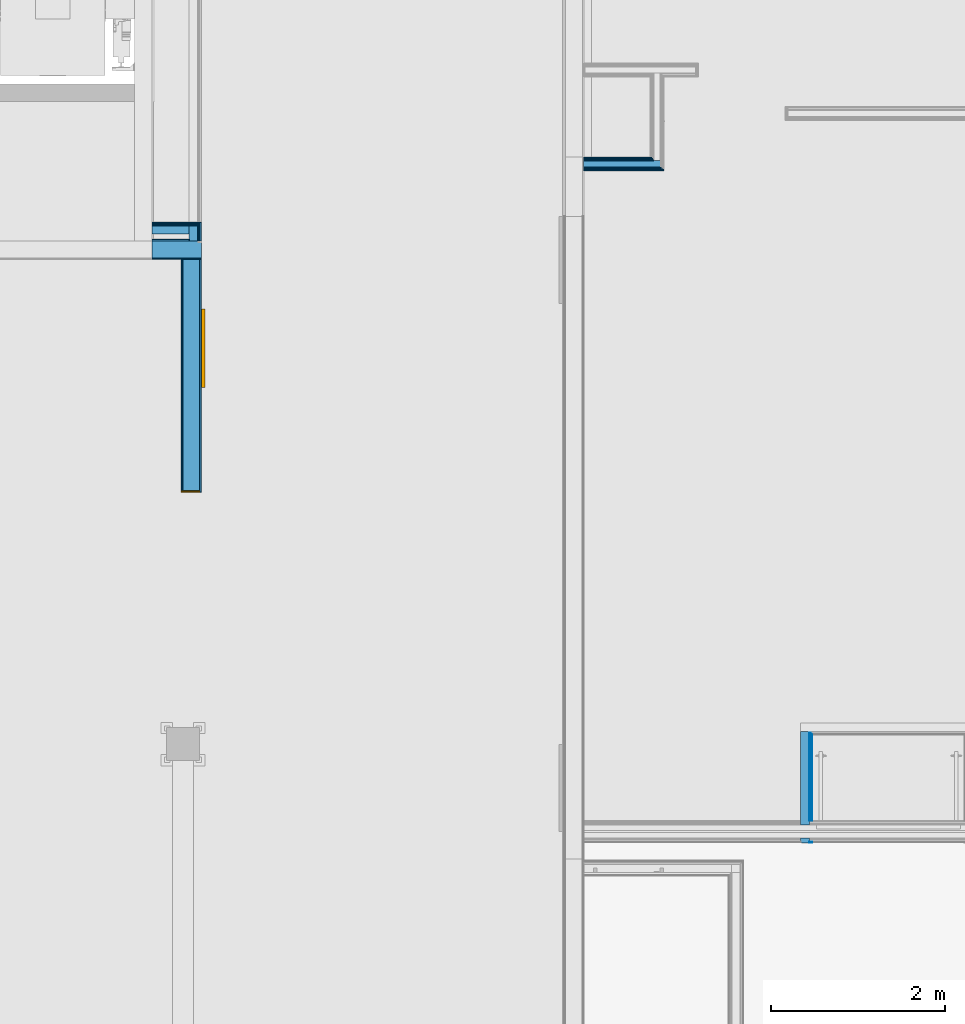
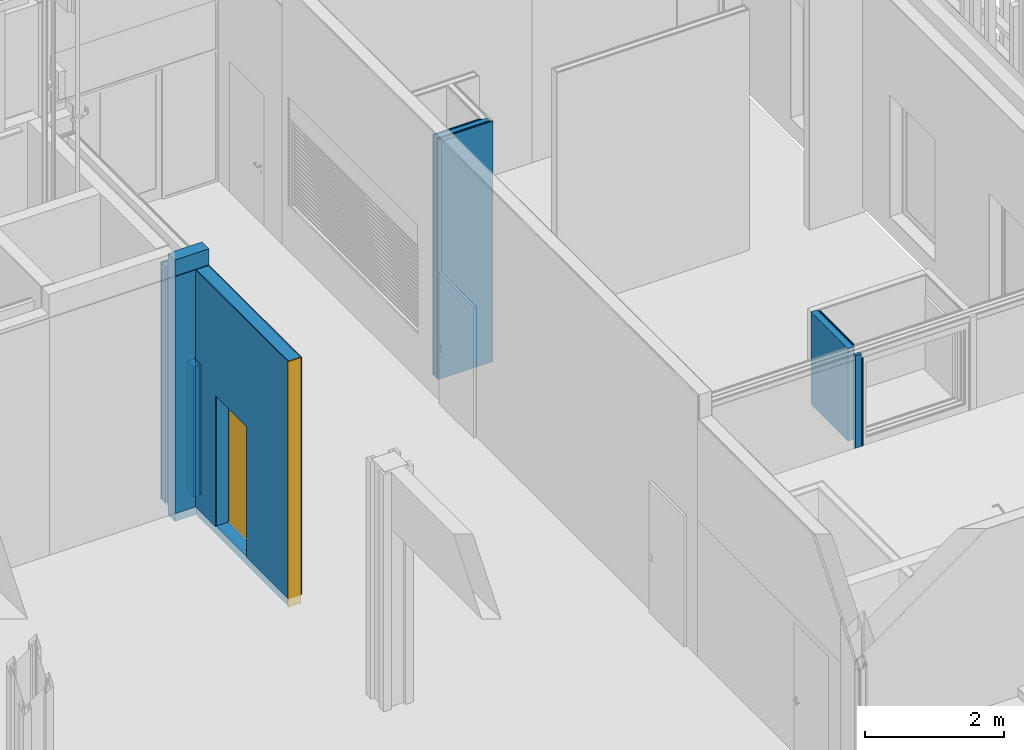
# One storey, part 179 of 260: 25 building element parts, 1 covering, 1 door, 2 openings, 6 elements without a shape of their own.
"""IFC2X3 building model written with IfcOpenShell, lengths in millimetres."""

from ifc_helpers import new_model, entity, si_unit, converted_unit, derived_unit, money_unit, direction, frame, origin_with_axes, place, context, subcontext, project, spatial, faceted_brep, material, type_object, element, fill, aggregate, save


model = new_model("IFC2X3")

# Units and contexts
model_context = context("Model", 3, precision=0.01, world=origin_with_axes(), true_north=direction((0.0, 1.0)))
body_context = subcontext(model_context, "Body", "Model", "MODEL_VIEW")
ifc_project = project(units=[si_unit("LENGTHUNIT", "METRE", prefix="MILLI"), si_unit("AREAUNIT", "SQUARE_METRE"), si_unit("VOLUMEUNIT", "CUBIC_METRE"), converted_unit("PLANEANGLEUNIT", "DEGREE", entity("IfcPlaneAngleMeasure", 0.0174532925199), si_unit("PLANEANGLEUNIT", "RADIAN"), dimensions=[0, 0, 0, 0, 0, 0, 0]), money_unit("EUR"), converted_unit("TIMEUNIT", "Year", entity("IfcTimeMeasure", 31556926.0), si_unit("TIMEUNIT", "SECOND"), dimensions=[0, 0, 1, 0, 0, 0, 0]), si_unit("MASSUNIT", "GRAM", prefix="KILO"), si_unit("THERMODYNAMICTEMPERATUREUNIT", "DEGREE_CELSIUS"), si_unit("LUMINOUSINTENSITYUNIT", "LUMEN"), si_unit("ENERGYUNIT", "JOULE", prefix="MEGA"), derived_unit("THERMALCONDUCTANCEUNIT", [(si_unit("POWERUNIT", "WATT"), 1), (si_unit("LENGTHUNIT", "METRE"), -1), (si_unit("THERMODYNAMICTEMPERATUREUNIT", "KELVIN"), -1)]), derived_unit("SPECIFICHEATCAPACITYUNIT", [(si_unit("ENERGYUNIT", "JOULE"), 1), (si_unit("MASSUNIT", "GRAM", prefix="KILO"), -1), (si_unit("THERMODYNAMICTEMPERATUREUNIT", "KELVIN"), -1)]), derived_unit("MASSDENSITYUNIT", [(si_unit("MASSUNIT", "GRAM", prefix="KILO"), 1), (si_unit("VOLUMEUNIT", "CUBIC_METRE"), -1)])], contexts=[model_context])

# Site, building, storey
site_placement = place(None, origin_with_axes())
site = spatial("IfcSite", under=ifc_project, at=site_placement, Name="Kolde pst 67a", CompositionType="ELEMENT")
building_placement = place(site_placement, origin_with_axes())
building = spatial("IfcBuilding", under=site, at=building_placement, Name="Riigigümnaasium", CompositionType="ELEMENT")
storey_placement = place(building_placement, origin_with_axes())
storey = spatial("IfcBuildingStorey", under=building, at=storey_placement, Name="1. korrus", CompositionType="ELEMENT", Elevation=0.0)

# Door
door_style = type_object("IfcDoorStyle", Name="Exterior Sliding Door 25", ConstructionType="NOTDEFINED", OperationType="SLIDING_TO_LEFT", ParameterTakesPrecedence=False, Sizeable=False)
wall_4_placement = place(storey_placement, frame((48224.9854661, 45654.9999598, -150.0), z_axis=(0.0, 0.0, 1.0), x_axis=(0.0, -1.0, 0.0)))
opening_2_placement = place(wall_4_placement, frame((1020.03828945, 0.0, 150.0), z_axis=(0.0, 0.0, 1.0), x_axis=(1.0, 0.0, 0.0)))
door_placement = place(opening_2_placement, frame((-450.0, 0.0, 0.0), z_axis=(0.0, 0.0, 1.0), x_axis=(1.0, 0.0, 0.0)))
door = element("IfcDoor", 1, at=door_placement, inside=storey, type_object=door_style, Name="Siseuks", ObjectType="DOOR", OverallHeight=2300.0, OverallWidth=900.0, context=body_context, shape_type="Brep", body=[
    faceted_brep([(880.0, 220.0, 940.0), (880.0, 210.0, 940.0), (820.0, 210.0, 940.0), (820.0, 220.0, 940.0), (880.0, 220.0, 1060.0), (880.0, 210.0, 1060.0), (820.0, 210.0, 1060.0), (870.0, 210.0, 955.0), (830.0, 210.0, 955.0), (830.0, 210.0, 1045.0), (870.0, 210.0, 1045.0), (820.0, 220.0, 1060.0), (870.0, 220.0, 955.0), (870.0, 220.0, 1045.0), (830.0, 220.0, 1045.0), (830.0, 220.0, 955.0)], [[[0, 1, 2, 3]], [[4, 5, 1, 0]], [[1, 5, 6, 2], [7, 8, 9, 10]], [[3, 2, 6, 11]], [[0, 3, 11, 4], [12, 13, 14, 15]], [[11, 6, 5, 4]], [[15, 8, 7, 12]], [[14, 9, 8, 15]], [[13, 10, 9, 14]], [[12, 7, 10, 13]]]),
    faceted_brep([(870.0, 220.0, 955.0), (870.0, 210.0, 955.0), (830.0, 217.0, 955.0), (830.0, 220.0, 955.0), (870.0, 220.0, 1045.0), (870.0, 210.0, 1045.0), (830.0, 217.0, 1045.0), (830.0, 220.0, 1045.0)], [[[0, 1, 2, 3]], [[4, 5, 1, 0]], [[1, 5, 6, 2]], [[3, 2, 6, 7]], [[0, 3, 7, 4]], [[7, 6, 5, 4]]]),
    faceted_brep([(880.0, 260.0, 940.0), (820.0, 260.0, 940.0), (820.0, 270.0, 940.0), (880.0, 270.0, 940.0), (880.0, 260.0, 1060.0), (820.0, 260.0, 1060.0), (870.0, 260.0, 955.0), (830.0, 260.0, 955.0), (830.0, 260.0, 1045.0), (870.0, 260.0, 1045.0), (820.0, 270.0, 1060.0), (880.0, 270.0, 1060.0), (870.0, 270.0, 955.0), (870.0, 270.0, 1045.0), (830.0, 270.0, 1045.0), (830.0, 270.0, 955.0)], [[[0, 1, 2, 3]], [[0, 4, 5, 1], [6, 7, 8, 9]], [[1, 5, 10, 2]], [[3, 2, 10, 11], [12, 13, 14, 15]], [[4, 0, 3, 11]], [[5, 4, 11, 10]], [[7, 6, 12, 15]], [[8, 7, 15, 14]], [[9, 8, 14, 13]], [[6, 9, 13, 12]]]),
    faceted_brep([(870.0, 260.0, 955.0), (830.0, 260.0, 955.0), (830.0, 263.0, 955.0), (870.0, 270.0, 955.0), (870.0, 260.0, 1045.0), (830.0, 260.0, 1045.0), (830.0, 263.0, 1045.0), (870.0, 270.0, 1045.0)], [[[0, 1, 2, 3]], [[0, 4, 5, 1]], [[1, 5, 6, 2]], [[3, 2, 6, 7]], [[4, 0, 3, 7]], [[5, 4, 7, 6]]]),
    faceted_brep([(0.0, 260.0, 0.0), (900.0, 260.0, 0.0), (900.0, 220.0, 0.0), (0.0, 220.0, 0.0), (0.0, 260.0, 2300.0), (900.0, 260.0, 2300.0), (900.0, 220.0, 2300.0), (0.0, 220.0, 2300.0)], [[[0, 1, 2, 3]], [[0, 4, 5, 1]], [[1, 5, 6, 2]], [[3, 2, 6, 7]], [[4, 0, 3, 7]], [[5, 4, 7, 6]]]),
])

# Covering
ifc_material_1 = material(Name="_VIIMISTLUSKIHT - viimistlus vastavalt SA osale")
covering_type = type_object("IfcCoveringType", Name="Returned End 25", PredefinedType="NOTDEFINED")
opening_1_placement = place(wall_4_placement, frame((2670.0, 0.0, 0.0), z_axis=(0.0, 0.0, 1.0), x_axis=(1.0, 0.0, 0.0)))
covering_placement = place(opening_1_placement, frame((7.5, 0.0, 0.0), z_axis=(0.0, 0.0, 1.0), x_axis=(-1.0, 0.0, 0.0)))
covering = element("IfcCovering", 2, at=covering_placement, inside=storey, type_object=covering_type, material=ifc_material_1, Name="Seina otsa krohv", PredefinedType="NOTDEFINED", context=body_context, shape_type="Brep", body=[
    faceted_brep([(7.5, -200.0, 0.0), (22.5, -200.0, 0.0), (22.5, -200.0, 4320.0), (7.5, -200.0, 4320.0), (7.5, 15.0, 0.0), (22.5, 15.0, 0.0), (22.5, 15.0, 4320.0), (7.5, 15.0, 4320.0)], [[[0, 1, 2, 3]], [[4, 5, 1, 0]], [[5, 6, 2, 1]], [[6, 7, 3, 2]], [[7, 4, 0, 3]], [[4, 7, 6, 5]]]),
])

# Wall, building element parts
wall_type_1 = type_object("IfcWallType", Name="SS-RB-20/2_+2 plaat 230", PredefinedType="NOTDEFINED")
wall_1_placement = place(storey_placement, frame((48439.9854661, 45669.9999598, -150.0), z_axis=(0.0, 0.0, 1.0), x_axis=(-1.0, 0.0, 0.0)))
wall_1 = element("IfcWall", 3, at=wall_1_placement, inside=storey, type_object=wall_type_1, Name="Sisesein")
building_element_part_1_placement = place(wall_1_placement, origin_with_axes())
building_element_part_1 = element("IfcBuildingElementPart", 4, at=building_element_part_1_placement, material=ifc_material_1, Name="_VIIMISTLUSKIHT - viimistlus vastavalt SA osale", context=body_context, shape_type="Brep", body=[
    faceted_brep([(0.0, 15.0, 150.0), (0.0, -4.47037962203e-07, 150.0), (0.0, -4.47037962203e-07, 4320.0), (0.0, 15.0000023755, 4320.0), (565.000005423, 0.0, 150.0), (565.000005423, 15.0, 150.0), (565.000005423, 0.0, 4320.0), (565.000005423, 15.0, 4320.0)], [[[0, 1, 2, 3]], [[4, 1, 0, 5]], [[1, 4, 6, 2]], [[3, 2, 6, 7]], [[5, 0, 3, 7]], [[4, 5, 7, 6]]]),
])
ifc_material_2 = material(Name="_KANDETARIND - monteeritav raudbetoon vastavalt EK osale")
building_element_part_2_placement = place(wall_1_placement, origin_with_axes())
building_element_part_2 = element("IfcBuildingElementPart", 5, at=building_element_part_2_placement, material=ifc_material_2, Name="_KANDETARIND - monteeritav raudbetoon vastavalt EK osale", context=body_context, shape_type="Brep", body=[
    faceted_brep([(565.000005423, -200.0, 4600.0), (0.0, -199.999999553, 4600.0), (0.0, -199.999999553, 0.0), (565.000005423, -200.0, 0.0), (0.0, -4.47037962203e-07, 4600.0), (565.000005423, 0.0, 4600.0), (0.0, -4.47037962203e-07, 0.0), (565.000005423, 0.0, 0.0)], [[[0, 1, 2, 3]], [[4, 1, 0, 5]], [[1, 4, 6, 2]], [[7, 3, 2, 6]], [[5, 0, 3, 7]], [[4, 5, 7, 6]]]),
])
building_element_part_3_placement = place(wall_1_placement, origin_with_axes())
building_element_part_3 = element("IfcBuildingElementPart", 6, at=building_element_part_3_placement, material=ifc_material_1, Name="_VIIMISTLUSKIHT - viimistlus vastavalt SA osale", context=body_context, shape_type="Brep", body=[
    faceted_brep([(140.0, -199.999999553, 150.0), (140.0, -215.0, 150.0), (140.0, -215.0, 4320.0), (140.0, -199.999999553, 4320.0), (565.000005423, -215.0, 150.0), (565.000005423, -200.0, 150.0), (565.000005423, -215.0, 4320.0), (565.000005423, -200.0, 4320.0)], [[[0, 1, 2, 3]], [[4, 1, 0, 5]], [[1, 4, 6, 2]], [[3, 2, 6, 7]], [[5, 0, 3, 7]], [[4, 5, 7, 6]]]),
])
aggregate(wall_1, [building_element_part_1, building_element_part_2, building_element_part_3])

wall_type_2 = type_object("IfcWallType", Name="SS-MK-7,5/1_plaaditud 155", PredefinedType="NOTDEFINED")
wall_2_placement = place(storey_placement, frame((52830.5975603, 46830.1043901, 0.0), z_axis=(0.0, 0.0, 1.0), x_axis=(1.0, 0.0, 0.0)))
wall_2 = element("IfcWall", 7, at=wall_2_placement, inside=storey, type_object=wall_type_2, Name="Sisesein")
building_element_part_4_placement = place(wall_2_placement, origin_with_axes())
building_element_part_4 = element("IfcBuildingElementPart", 8, at=building_element_part_4_placement, material=ifc_material_1, Name="_VIIMISTLUSKIHT - viimistlus vastavalt SA osale", context=body_context, shape_type="Brep", body=[
    faceted_brep([(779.831880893, -15.0, 900.0), (779.831880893, 0.0, 900.0), (779.831880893, 0.0, 4230.00000998), (779.831880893, -15.0, 4230.00000998), (764.831912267, -3.13736521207e-05, 900.0), (764.831912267, -3.13736521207e-05, 0.0), (0.0, 0.0, 0.0), (0.0, 0.0, 4230.00000998), (0.0, -15.0, 4230.00000998), (779.831882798, -15.0, 0.0), (0.0, -15.0, 0.0)], [[[0, 1, 2, 3]], [[4, 1, 0]], [[4, 5, 6, 7, 2, 1]], [[3, 2, 7, 8]], [[9, 0, 3, 8, 10]], [[9, 5, 4, 0]], [[5, 9, 10, 6]], [[10, 8, 7, 6]]]),
])
ifc_material_3 = material(Name="_PLAATMATERJAL - kipsplaat veekindel")
building_element_part_5_placement = place(wall_2_placement, origin_with_axes())
building_element_part_5 = element("IfcBuildingElementPart", 9, at=building_element_part_5_placement, material=ifc_material_3, Name="_PLAATMATERJAL - kipsplaat veekindel", context=body_context, shape_type="Brep", body=[
    faceted_brep([(792.331880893, -27.5, 4230.00000998), (792.331880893, -15.0, 4230.00000998), (0.0, -15.0, 4230.00000998), (0.0, -27.5, 4230.00000998), (792.331880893, -27.5, 0.0), (792.331880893, -15.0, 0.0), (0.0, -15.0, 0.0), (0.0, -27.5, 0.0)], [[[0, 1, 2, 3]], [[1, 0, 4, 5]], [[1, 5, 6, 2]], [[7, 3, 2, 6]], [[4, 0, 3, 7]], [[5, 4, 7, 6]]]),
])
building_element_part_6_placement = place(wall_2_placement, origin_with_axes())
building_element_part_6 = element("IfcBuildingElementPart", 10, at=building_element_part_6_placement, material=ifc_material_3, Name="_PLAATMATERJAL - kipsplaat veekindel", context=body_context, shape_type="Brep", body=[
    faceted_brep([(804.831880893, -27.5, 4230.00000998), (0.0, -27.5, 4230.00000998), (0.0, -40.0, 4230.00000998), (804.831880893, -40.0, 4230.00000998), (804.831880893, -27.5, 0.0), (0.0, -27.5, 0.0), (0.0, -40.0, 0.0), (804.831880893, -40.0, 0.0)], [[[0, 1, 2, 3]], [[4, 5, 1, 0]], [[2, 1, 5, 6]], [[3, 2, 6, 7]], [[3, 7, 4, 0]], [[7, 6, 5, 4]]]),
])
ifc_material_4 = material(Name="_KARKASS - metallkarkass CW 75/50, mineraalvill karkassi vahel")
building_element_part_7_placement = place(wall_2_placement, origin_with_axes())
building_element_part_7 = element("IfcBuildingElementPart", 11, at=building_element_part_7_placement, material=ifc_material_4, Name="_KARKASS - metallkarkass CW 75/50, mineraalvill karkassi vahel", context=body_context, shape_type="Brep", body=[
    faceted_brep([(879.831880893, -40.0, 4230.00000998), (0.0, -40.0, 4230.00000998), (0.0, -115.0, 4230.00000998), (879.831880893, -115.0, 4230.00000998), (879.831880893, -40.0, 0.0), (0.0, -40.0, 0.0), (0.0, -115.0, 0.0), (879.831880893, -115.0, 0.0)], [[[0, 1, 2, 3]], [[4, 5, 1, 0]], [[2, 1, 5, 6]], [[3, 2, 6, 7]], [[3, 7, 4, 0]], [[7, 6, 5, 4]]]),
])
building_element_part_8_placement = place(wall_2_placement, origin_with_axes())
building_element_part_8 = element("IfcBuildingElementPart", 12, at=building_element_part_8_placement, material=ifc_material_3, Name="_PLAATMATERJAL - kipsplaat veekindel", context=body_context, shape_type="Brep", body=[
    faceted_brep([(892.331880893, -115.0, 4230.00000998), (0.0, -115.0, 4230.00000998), (0.0, -127.5, 4230.00000998), (892.331880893, -127.5, 4230.00000998), (892.331880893, -115.0, 0.0), (0.0, -115.0, 0.0), (0.0, -127.5, 0.0), (892.331880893, -127.5, 0.0)], [[[0, 1, 2, 3]], [[4, 5, 1, 0]], [[2, 1, 5, 6]], [[3, 2, 6, 7]], [[3, 7, 4, 0]], [[7, 6, 5, 4]]]),
])
building_element_part_9_placement = place(wall_2_placement, origin_with_axes())
building_element_part_9 = element("IfcBuildingElementPart", 13, at=building_element_part_9_placement, material=ifc_material_3, Name="_PLAATMATERJAL - kipsplaat veekindel", context=body_context, shape_type="Brep", body=[
    faceted_brep([(904.831880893, -127.5, 4230.00000998), (0.0, -127.5, 4230.00000998), (0.0, -140.0, 4230.00000998), (904.831880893, -140.0, 4230.00000998), (904.831880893, -127.5, 0.0), (0.0, -127.5, 0.0), (0.0, -140.0, 0.0), (904.831880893, -140.0, 0.0)], [[[0, 1, 2, 3]], [[4, 5, 1, 0]], [[2, 1, 5, 6]], [[3, 2, 6, 7]], [[3, 7, 4, 0]], [[7, 6, 5, 4]]]),
])
building_element_part_10_placement = place(wall_2_placement, origin_with_axes())
building_element_part_10 = element("IfcBuildingElementPart", 14, at=building_element_part_10_placement, material=ifc_material_1, Name="_VIIMISTLUSKIHT - viimistlus vastavalt SA osale", context=body_context, shape_type="Brep", body=[
    faceted_brep([(919.831880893, -140.0, 4230.00000998), (0.0, -140.0, 4230.00000998), (0.0, -155.0, 4230.00000998), (919.831880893, -155.0, 4230.00000998), (919.831880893, -140.0, 0.0), (0.0, -140.0, 0.0), (0.0, -155.0, 0.0), (919.831880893, -155.0, 0.0)], [[[0, 1, 2, 3]], [[4, 5, 1, 0]], [[2, 1, 5, 6]], [[3, 2, 6, 7]], [[3, 7, 4, 0]], [[7, 6, 5, 4]]]),
])
aggregate(wall_2, [building_element_part_4, building_element_part_5, building_element_part_6, building_element_part_7, building_element_part_8, building_element_part_9, building_element_part_10])

wall_type_3 = type_object("IfcWallType", Name="SS-MK-10/6_šahti sein+krohv 40 dB 135", PredefinedType="NOTDEFINED")
wall_3_placement = place(storey_placement, frame((55457.5085138, 40198.8677168, 2600.0), z_axis=(0.0, 0.0, 1.0), x_axis=(0.0, -1.0, 0.0)))
wall_3 = element("IfcWall", 15, at=wall_3_placement, inside=storey, type_object=wall_type_3, Name="Varisein")
building_element_part_11_placement = place(wall_3_placement, origin_with_axes())
building_element_part_11 = element("IfcBuildingElementPart", 16, at=building_element_part_11_placement, material=ifc_material_1, Name="_VIIMISTLUSKIHT - viimistlus vastavalt SA osale", context=body_context, shape_type="Brep", body=[
    faceted_brep([(1232.0, -10.0, 1550.0), (1232.0, 0.0, 1550.0), (1232.0, 0.0, 0.0), (1232.0, -10.0, 0.0), (1242.0, 0.0, 1550.0), (1242.0, -10.0, 1550.0), (1242.0, 0.0, 0.0), (1242.0, -10.0, 0.0)], [[[0, 1, 2, 3]], [[4, 1, 0, 5]], [[1, 4, 6, 2]], [[2, 6, 7, 3]], [[5, 0, 3, 7]], [[4, 5, 7, 6]]]),
    faceted_brep([(990.0, 0.0, 1630.0), (0.0, 0.0, 1630.0), (0.0, -10.0, 1630.0), (990.0, -10.0, 1630.0), (990.0, 0.0, 0.0), (0.0, 0.0, 0.0), (0.0, -10.0, 0.0), (990.0, -10.0, 0.0)], [[[0, 1, 2, 3]], [[4, 5, 1, 0]], [[2, 1, 5, 6]], [[3, 2, 6, 7]], [[3, 7, 4, 0]], [[7, 6, 5, 4]]]),
])
building_element_part_12_placement = place(wall_3_placement, origin_with_axes())
building_element_part_12 = element("IfcBuildingElementPart", 17, at=building_element_part_12_placement, material=ifc_material_3, Name="_PLAATMATERJAL - kipsplaat veekindel", context=body_context, shape_type="Brep", body=[
    faceted_brep([(1232.0, -22.5, 1550.0), (1232.0, -10.0, 1550.0), (1232.0, -10.0, 0.0), (1232.0, -22.5, 0.0), (1242.0, -10.0, 1550.0), (1242.0, -22.5, 1550.0), (1242.0, -10.0, 0.0), (1242.0, -22.5, 0.0)], [[[0, 1, 2, 3]], [[4, 1, 0, 5]], [[1, 4, 6, 2]], [[2, 6, 7, 3]], [[5, 0, 3, 7]], [[4, 5, 7, 6]]]),
    faceted_brep([(990.0, -10.0, 1630.0), (-10.0, -10.0, 1630.0), (-10.0, -22.5, 1630.0), (990.0, -22.5, 1630.0), (990.0, -10.0, 0.0), (-10.0, -10.0, 0.0), (-10.0, -22.5, 0.0), (990.0, -22.5, 0.0)], [[[0, 1, 2, 3]], [[4, 5, 1, 0]], [[2, 1, 5, 6]], [[3, 2, 6, 7]], [[3, 7, 4, 0]], [[7, 6, 5, 4]]]),
])
building_element_part_13_placement = place(wall_3_placement, origin_with_axes())
building_element_part_13 = element("IfcBuildingElementPart", 18, at=building_element_part_13_placement, material=ifc_material_3, Name="_PLAATMATERJAL - kipsplaat veekindel", context=body_context, shape_type="Brep", body=[
    faceted_brep([(1232.0, -35.0, 1550.0), (1232.0, -22.5, 1550.0), (1232.0, -22.5, 0.0), (1232.0, -35.0, 0.0), (1242.0, -22.5, 1550.0), (1242.0, -35.0, 1550.0), (1242.0, -22.5, 0.0), (1242.0, -35.0, 0.0)], [[[0, 1, 2, 3]], [[4, 1, 0, 5]], [[1, 4, 6, 2]], [[2, 6, 7, 3]], [[5, 0, 3, 7]], [[4, 5, 7, 6]]]),
    faceted_brep([(990.0, -22.5, 1630.0), (-22.5, -22.5, 1630.0), (-22.5, -35.0, 1630.0), (990.0, -35.0, 1630.0), (990.0, -22.5, 0.0), (-22.5, -22.5, 0.0), (-22.5, -35.0, 0.0), (990.0, -35.0, 0.0)], [[[0, 1, 2, 3]], [[4, 5, 1, 0]], [[2, 1, 5, 6]], [[3, 2, 6, 7]], [[3, 7, 4, 0]], [[7, 6, 5, 4]]]),
])
ifc_material_5 = material(Name="_KARKASS - metallkarkass CW 100/50/06 ja UW 100/40/06, samm 600, vahel mineraalvill, helineeldetegur αw = 1.0,  ISOVER ACOUSTIC 100mm või samaväärne")
building_element_part_14_placement = place(wall_3_placement, origin_with_axes())
building_element_part_14 = element("IfcBuildingElementPart", 19, at=building_element_part_14_placement, material=ifc_material_5, Name="_KARKASS - metallkarkass CW 100/50/06 ja UW 100/40/06, samm 600, vahel mineraalvill, helineeldetegur αw = 1.0,  ISOVER ACOUSTIC 100mm või samaväärne", context=body_context, shape_type="Brep", body=[
    faceted_brep([(1035.0, -35.0, 1630.0), (-35.0, -35.0, 1630.0), (-35.0, -135.0, 1630.0), (1035.0, -135.0, 1630.0), (1035.0, -35.0, 0.0), (-35.0, -35.0, 0.0), (-35.0, -135.0, 0.0), (1035.0, -135.0, 0.0)], [[[0, 1, 2, 3]], [[4, 5, 1, 0]], [[2, 1, 5, 6]], [[3, 2, 6, 7]], [[3, 7, 4, 0]], [[7, 6, 5, 4]]]),
    faceted_brep([(1242.0, -135.0, 1630.0), (1242.0, -35.0, 1630.0), (1187.0, -35.0, 1630.0), (1187.0, -135.0, 1630.0), (1242.0, -135.0, 0.0), (1242.0, -35.0, 0.0), (1187.0, -35.0, 0.0), (1187.0, -135.0, 0.0)], [[[0, 1, 2, 3]], [[0, 4, 5, 1]], [[1, 5, 6, 2]], [[3, 2, 6, 7]], [[4, 0, 3, 7]], [[5, 4, 7, 6]]]),
])
aggregate(wall_3, [building_element_part_11, building_element_part_12, building_element_part_13, building_element_part_14])

# Wall, opening
wall_type_4 = type_object("IfcWallType", Name="SS-KP-20/1_2xplaaditud 230", PredefinedType="NOTDEFINED")
wall_4 = element("IfcWall", 20, at=wall_4_placement, inside=storey, type_object=wall_type_4, Name="Sisesein")
opening_1 = element("IfcOpeningElement", 21, at=opening_1_placement, cuts=wall_4, Name="Seina otsa krohv", context=body_context, shape_type="Brep", body=[
    faceted_brep([(-15.0, -15.0, 0.0), (0.0, -15.0, 0.0), (0.0, -15.0, 4320.0), (-15.0, -15.0, 4320.0), (-15.0, 200.0, 0.0), (0.0, 200.0, 0.0), (0.0, 200.0, 4320.0), (-15.0, 200.0, 4320.0)], [[[0, 1, 2, 3]], [[0, 4, 5, 1]], [[1, 5, 6, 2]], [[3, 2, 6, 7]], [[4, 0, 3, 7]], [[5, 4, 7, 6]]]),
])

fill(opening_1, covering)

# Opening
opening_2 = element("IfcOpeningElement", 22, at=opening_2_placement, cuts=wall_4, Name="Siseuks", context=body_context, shape_type="Brep", body=[
    faceted_brep([(-450.0, 460.0, 2300.0), (-450.0, 460.0, 0.0), (-450.0, -230.0, 0.0), (-450.0, -230.0, 2300.0), (450.0, 460.0, 2300.0), (450.0, 460.0, 0.0), (450.0, -230.0, 0.0), (450.0, -230.0, 2300.0)], [[[0, 1, 2, 3]], [[0, 4, 5, 1]], [[1, 5, 6, 2]], [[3, 2, 6, 7]], [[4, 0, 3, 7]], [[5, 4, 7, 6]]]),
])

fill(opening_2, door)

# Building element part
building_element_part_15_placement = place(wall_4_placement, origin_with_axes())
building_element_part_15 = element("IfcBuildingElementPart", 23, at=building_element_part_15_placement, material=ifc_material_1, Name="_VIIMISTLUSKIHT - viimistlus vastavalt SA osale", context=body_context, shape_type="Brep", body=[
    faceted_brep([(1470.03828945, 215.0, 150.0), (1470.03828945, 215.0, 2450.0), (570.03828945, 215.0, 2450.0), (570.03828945, 215.0, 150.0), (0.0, 215.0, 150.0), (0.0, 215.0, 4320.0), (2670.0, 215.0, 4320.0), (2670.0, 215.0, 150.0), (1470.03828945, 200.0, 150.0), (1470.03828945, 200.0, 2450.0), (570.03828945, 200.0, 2450.0), (570.03828945, 200.0, 150.0), (0.0, 200.0, 150.0), (0.0, 200.0, 4320.0), (2670.0, 200.0, 4320.0), (2670.0, 200.0, 150.0)], [[[0, 1, 2, 3, 4, 5, 6, 7]], [[1, 0, 8, 9]], [[2, 1, 9, 10]], [[3, 2, 10, 11]], [[3, 11, 12, 4]], [[12, 13, 5, 4]], [[14, 6, 5, 13]], [[7, 6, 14, 15]], [[8, 0, 7, 15]], [[9, 8, 15, 14, 13, 12, 11, 10]]]),
])

ifc_material_6 = material(Name="_KANDETARIND - kergplokk Fibo3 200mm")
building_element_part_16_placement = place(wall_4_placement, origin_with_axes())
building_element_part_16 = element("IfcBuildingElementPart", 24, at=building_element_part_16_placement, material=ifc_material_6, Name="_KANDETARIND - kergplokk Fibo3 200mm", context=body_context, shape_type="Brep", body=[
    faceted_brep([(2655.0, 0.0, 4320.0), (0.0, 0.0, 4320.0), (0.0, 0.0, 0.0), (2655.0, 0.0, 0.0), (1470.03828945, 0.0, 150.0), (570.03828945, 0.0, 150.0), (570.03828945, 0.0, 2450.0), (1470.03828945, 0.0, 2450.0), (2655.0, 200.0, 4320.0), (0.0, 200.0, 4320.0), (0.0, 200.0, 0.0), (2655.0, 200.0, 0.0), (1470.03828945, 200.0, 150.0), (570.03828945, 200.0, 150.0), (570.03828945, 200.0, 2450.0), (1470.03828945, 200.0, 2450.0)], [[[0, 1, 2, 3], [4, 5, 6, 7]], [[8, 9, 1, 0]], [[1, 9, 10, 2]], [[3, 2, 10, 11]], [[8, 0, 3, 11]], [[12, 13, 5, 4]], [[13, 14, 6, 5]], [[14, 15, 7, 6]], [[15, 12, 4, 7]], [[11, 10, 9, 8], [12, 15, 14, 13]]]),
])

building_element_part_17_placement = place(wall_4_placement, origin_with_axes())
building_element_part_17 = element("IfcBuildingElementPart", 25, at=building_element_part_17_placement, material=ifc_material_1, Name="_VIIMISTLUSKIHT - viimistlus vastavalt SA osale", context=body_context, shape_type="Brep", body=[
    faceted_brep([(1470.03828945, 0.0, 150.0), (1470.03828945, 0.0, 2450.0), (570.03828945, 0.0, 2450.0), (570.03828945, 0.0, 150.0), (0.0, 0.0, 150.0), (0.0, 0.0, 4320.0), (2655.0, 0.0, 4320.0), (2655.0, 0.0, 150.0), (1470.03828945, -15.0, 150.0), (1470.03828945, -15.0, 2450.0), (570.03828945, -15.0, 2450.0), (570.03828945, -15.0, 150.0), (0.0, -15.0, 150.0), (0.0, -15.0, 4320.0), (2655.0, -15.0, 4320.0), (2655.0, -15.0, 150.0)], [[[0, 1, 2, 3, 4, 5, 6, 7]], [[1, 0, 8, 9]], [[2, 1, 9, 10]], [[3, 2, 10, 11]], [[3, 11, 12, 4]], [[13, 5, 4, 12]], [[6, 5, 13, 14]], [[6, 14, 15, 7]], [[8, 0, 7, 15]], [[9, 8, 15, 14, 13, 12, 11, 10]]]),
])

aggregate(wall_4, [building_element_part_15, building_element_part_16, building_element_part_17])

# Wall, building element parts
wall_type_5 = type_object("IfcWallType", Name="SS-MK-10/2_šahti sein+plaat 140", PredefinedType="NOTDEFINED")
wall_5_placement = place(storey_placement, frame((48439.9854661, 45669.9999598, 0.0), z_axis=(0.0, 0.0, 1.0), x_axis=(0.0, 1.0, 0.0)))
wall_5 = element("IfcWall", 26, at=wall_5_placement, inside=storey, type_object=wall_type_5, Name="Sisesein")
building_element_part_18_placement = place(wall_5_placement, origin_with_axes())
building_element_part_18 = element("IfcBuildingElementPart", 27, at=building_element_part_18_placement, material=ifc_material_5, Name="_KARKASS - metallkarkass CW 100/50/06 ja UW 100/40/06, samm 600, vahel mineraalvill, helineeldetegur αw = 1.0,  ISOVER ACOUSTIC 100mm või samaväärne", context=body_context, shape_type="Brep", body=[
    faceted_brep([(375.000000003, 140.000005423, 2300.0), (375.000000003, 40.0000054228, 2300.0), (375.000000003, 40.0, 0.0), (375.000000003, 140.0, 0.0), (200.0, 40.0000054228, 2300.0), (200.0, 140.000005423, 2300.0), (200.0, 40.0, 0.0), (200.0, 140.0, 0.0)], [[[0, 1, 2, 3]], [[4, 1, 0, 5]], [[1, 4, 6, 2]], [[3, 2, 6, 7]], [[5, 0, 3, 7]], [[4, 5, 7, 6]]]),
])
building_element_part_19_placement = place(wall_5_placement, origin_with_axes())
building_element_part_19 = element("IfcBuildingElementPart", 28, at=building_element_part_19_placement, material=ifc_material_3, Name="_PLAATMATERJAL - kipsplaat veekindel", context=body_context, shape_type="Brep", body=[
    faceted_brep([(387.500000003, 40.0000054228, 2300.0), (387.500000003, 27.5000054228, 2300.0), (387.500000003, 27.5, 0.0), (387.500000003, 40.0, 0.0), (200.0, 27.5000054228, 2300.0), (200.0, 40.0000054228, 2300.0), (200.0, 27.5, 0.0), (200.0, 40.0, 0.0)], [[[0, 1, 2, 3]], [[4, 1, 0, 5]], [[1, 4, 6, 2]], [[3, 2, 6, 7]], [[5, 0, 3, 7]], [[4, 5, 7, 6]]]),
])
building_element_part_20_placement = place(wall_5_placement, origin_with_axes())
building_element_part_20 = element("IfcBuildingElementPart", 29, at=building_element_part_20_placement, material=ifc_material_3, Name="_PLAATMATERJAL - kipsplaat veekindel", context=body_context, shape_type="Brep", body=[
    faceted_brep([(400.000000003, 27.5000054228, 2300.0), (400.000000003, 15.0000054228, 2300.0), (400.000000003, 15.0, 0.0), (400.000000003, 27.5, 0.0), (200.0, 15.0000054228, 2300.0), (200.0, 27.5000054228, 2300.0), (200.0, 15.0, 0.0), (200.0, 27.5, 0.0)], [[[0, 1, 2, 3]], [[4, 1, 0, 5]], [[1, 4, 6, 2]], [[3, 2, 6, 7]], [[5, 0, 3, 7]], [[4, 5, 7, 6]]]),
])
building_element_part_21_placement = place(wall_5_placement, origin_with_axes())
building_element_part_21 = element("IfcBuildingElementPart", 30, at=building_element_part_21_placement, material=ifc_material_1, Name="_VIIMISTLUSKIHT - viimistlus vastavalt SA osale", context=body_context, shape_type="Brep", body=[
    faceted_brep([(415.000000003, 15.0000054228, 2300.0), (415.000000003, 5.42276978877e-06, 2300.0), (415.000000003, 0.0, 0.0), (415.000000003, 15.0, 0.0), (200.0, 5.42276978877e-06, 2300.0), (200.0, 15.0000054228, 2300.0), (200.0, 0.0, 0.0), (200.0, 15.0, 0.0)], [[[0, 1, 2, 3]], [[4, 1, 0, 5]], [[1, 4, 6, 2]], [[7, 3, 2, 6]], [[5, 0, 3, 7]], [[4, 5, 7, 6]]]),
])
aggregate(wall_5, [building_element_part_18, building_element_part_19, building_element_part_20, building_element_part_21])

wall_6_placement = place(storey_placement, frame((48439.9854661, 46084.9999599, 0.0), z_axis=(0.0, 0.0, 1.0), x_axis=(-1.0, 0.0, 0.0)))
wall_6 = element("IfcWall", 31, at=wall_6_placement, inside=storey, type_object=wall_type_5, Name="Sisesein")
building_element_part_22_placement = place(wall_6_placement, origin_with_axes())
building_element_part_22 = element("IfcBuildingElementPart", 32, at=building_element_part_22_placement, material=ifc_material_5, Name="_KARKASS - metallkarkass CW 100/50/06 ja UW 100/40/06, samm 600, vahel mineraalvill, helineeldetegur αw = 1.0,  ISOVER ACOUSTIC 100mm või samaväärne", context=body_context, shape_type="Brep", body=[
    faceted_brep([(565.000005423, 40.0, 4170.0), (140.0, 40.0, 4170.0), (140.0, 40.0, 0.0), (565.000005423, 40.0, 0.0), (140.0, 140.0, 4170.0), (565.000005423, 140.0, 4170.0), (140.0, 140.0, 0.0), (565.000005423, 140.0, 0.0)], [[[0, 1, 2, 3]], [[4, 1, 0, 5]], [[1, 4, 6, 2]], [[3, 2, 6, 7]], [[5, 0, 3, 7]], [[4, 5, 7, 6]]]),
])
building_element_part_23_placement = place(wall_6_placement, origin_with_axes())
building_element_part_23 = element("IfcBuildingElementPart", 33, at=building_element_part_23_placement, material=ifc_material_3, Name="_PLAATMATERJAL - kipsplaat veekindel", context=body_context, shape_type="Brep", body=[
    faceted_brep([(565.000005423, 27.5, 4170.0), (140.000005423, 27.5, 4170.0), (140.000005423, 27.5, 2300.0), (40.0000054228, 27.5, 2300.0), (40.0, 27.5, 0.0), (565.000005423, 27.5, 0.0), (140.000005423, 40.0, 4170.0), (565.000005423, 40.0, 4170.0), (140.000005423, 40.0, 2300.0), (40.0000054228, 40.0, 2300.0), (40.0, 40.0, 0.0), (565.000005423, 40.0, 0.0)], [[[0, 1, 2, 3, 4, 5]], [[6, 1, 0, 7]], [[1, 6, 8, 2]], [[8, 9, 3, 2]], [[4, 3, 9, 10]], [[5, 4, 10, 11]], [[7, 0, 5, 11]], [[6, 7, 11, 10, 9, 8]]]),
])
building_element_part_24_placement = place(wall_6_placement, origin_with_axes())
building_element_part_24 = element("IfcBuildingElementPart", 34, at=building_element_part_24_placement, material=ifc_material_3, Name="_PLAATMATERJAL - kipsplaat veekindel", context=body_context, shape_type="Brep", body=[
    faceted_brep([(565.000005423, 15.0, 4170.0), (140.000005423, 15.0, 4170.0), (140.000005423, 15.0, 2300.0), (27.5000054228, 15.0, 2300.0), (27.5, 15.0, 0.0), (565.000005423, 15.0, 0.0), (140.000005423, 27.5, 4170.0), (565.000005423, 27.5, 4170.0), (140.000005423, 27.5, 2300.0), (27.5000054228, 27.5, 2300.0), (27.5, 27.5, 0.0), (565.000005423, 27.5, 0.0)], [[[0, 1, 2, 3, 4, 5]], [[6, 1, 0, 7]], [[1, 6, 8, 2]], [[9, 3, 2, 8]], [[4, 3, 9, 10]], [[5, 4, 10, 11]], [[7, 0, 5, 11]], [[6, 7, 11, 10, 9, 8]]]),
])
building_element_part_25_placement = place(wall_6_placement, origin_with_axes())
building_element_part_25 = element("IfcBuildingElementPart", 35, at=building_element_part_25_placement, material=ifc_material_1, Name="_VIIMISTLUSKIHT - viimistlus vastavalt SA osale", context=body_context, shape_type="Brep", body=[
    faceted_brep([(565.000005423, 0.0, 4170.0), (140.000005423, 0.0, 4170.0), (140.000005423, 0.0, 2300.0), (15.0000054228, 0.0, 2300.0), (15.0, 0.0, 0.0), (565.000005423, 0.0, 0.0), (140.000005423, 15.0, 4170.0), (565.000005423, 15.0, 4170.0), (140.000005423, 15.0, 2300.0), (15.0000054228, 15.0, 2300.0), (15.0, 15.0, 0.0), (565.000005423, 15.0, 0.0)], [[[0, 1, 2, 3, 4, 5]], [[6, 1, 0, 7]], [[1, 6, 8, 2]], [[9, 3, 2, 8]], [[4, 3, 9, 10]], [[5, 4, 10, 11]], [[7, 0, 5, 11]], [[6, 7, 11, 10, 9, 8]]]),
])
aggregate(wall_6, [building_element_part_22, building_element_part_23, building_element_part_24, building_element_part_25])

save(model, "model.ifc")
